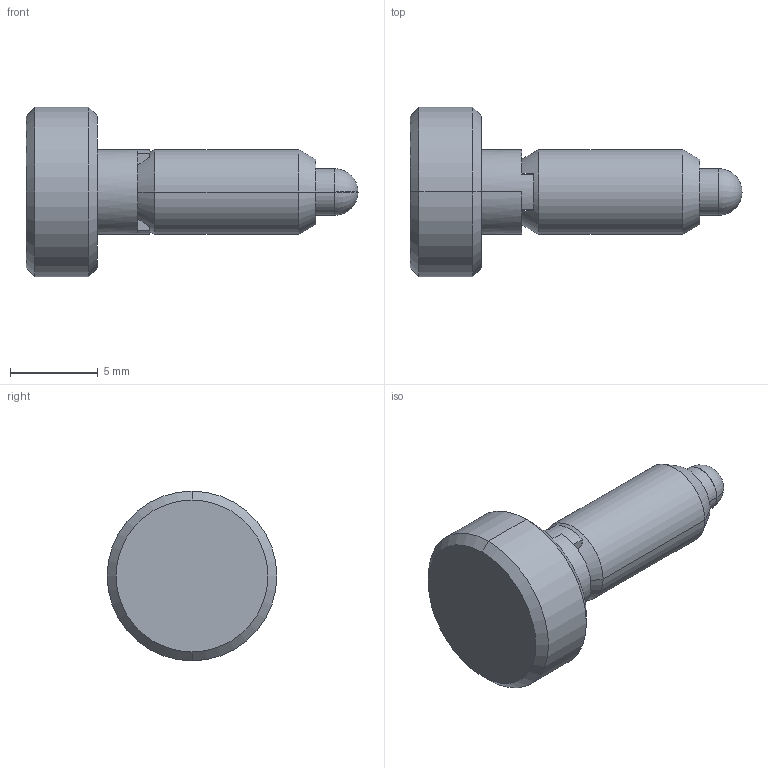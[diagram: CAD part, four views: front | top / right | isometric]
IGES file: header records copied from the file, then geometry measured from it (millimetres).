
Start section:  PTC IGES file: sl190-part.igs
Global section: file name: sl190-part.igs; native system: Pro/ENGINEER by Parametric Technology Corporation; preprocessor: 2002350; author: chant; organization: Unknown; date: 061213.155645; units: inch
Bounding box: 18.87 x 9.65 x 9.65 mm (x, y, z)
Surface area: 595.9 mm2 (no closed solid volume)
Topology: 0 solids, 0 shells, 39 faces, 293 edges, 363 vertices
Faces by surface type: revolution 25, bspline 14
